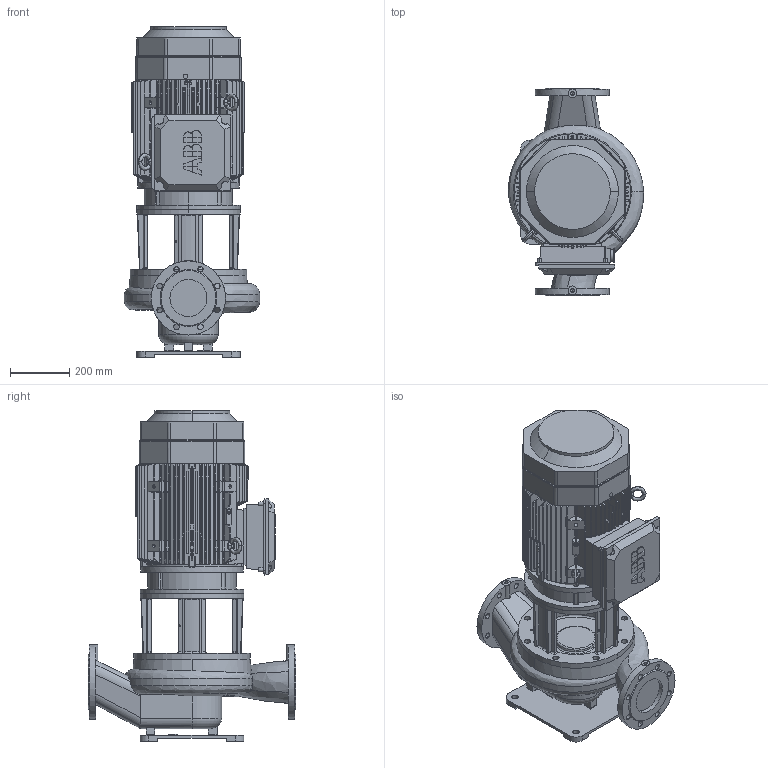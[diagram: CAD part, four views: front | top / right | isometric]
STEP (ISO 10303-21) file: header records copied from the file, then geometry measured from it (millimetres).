
FILE_DESCRIPTION(('STEP AP214'),'1');
FILE_NAME('export.stp','2018-05-29T13:19:36',(' '),(' '),'Spatial InterOp 3D',' ',' ');
FILE_SCHEMA(('AUTOMOTIVE_DESIGN { 1 0 10303 214 1 1 1 1 }'));
Length unit declared in the file: millimetre
Products named in the file (18): W_AL11294SD220; V_TL110611291154; V_PPAL1129; V_JALKA30940; IEC180_FRAME; P100781; IEC-180; 3GZV311000-999999-324000-324001_; 3GZV183002-193006-183002-183999_; -simplified-simplified_parts_Sta; -simplified-simplified_parts_M31; -simplified-simplified_parts_Fan; -simplified-simplified_parts_Ter; 3GZV244000-310999-294000-299999_; Implementation-STANDARD_PARTS_Li
Assembly tree (18 placements, depth 4):
  W_AL11294SD220
    V_TL110611291154
    V_PPAL1129
    V_JALKA30940
    IEC180_FRAME
      P100781
      IEC-180
        3GZV311000-999999-324000-324001_
        3GZV183002-193006-183002-183999_
        -simplified-simplified_parts_Sta
        -simplified-simplified_parts_M31
        -simplified-simplified_parts_Fan
        -simplified-simplified_parts_Ter
        -simplified-simplified_parts_Ter
        3GZV244000-310999-294000-299999_
        3GZV244000-310999-294000-299999_
        3GZV244000-310999-294000-299999_
        Implementation-STANDARD_PARTS_Li  x2
Bounding box: 456.07 x 700 x 1114.44 mm (x, y, z)
Volume: 90865132.7 mm3; surface area: 4978693.3 mm2
Topology: 11 solids, 141 shells, 1653 faces, 4691 edges, 3183 vertices
Faces by surface type: bspline 1259, cylinder 202, plane 117, torus 43, cone 32
Entity records: 88572 total; most frequent: CARTESIAN_POINT 29025, ORIENTED_EDGE 8595, STYLED_ITEM 4961, PRESENTATION_STYLE_ASSIGNMENT 4961, COLOUR_RGB 4961, EDGE_CURVE 4543, CURVE_STYLE 3328, DRAUGHTING_PRE_DEFINED_CURVE_FONT 3328
